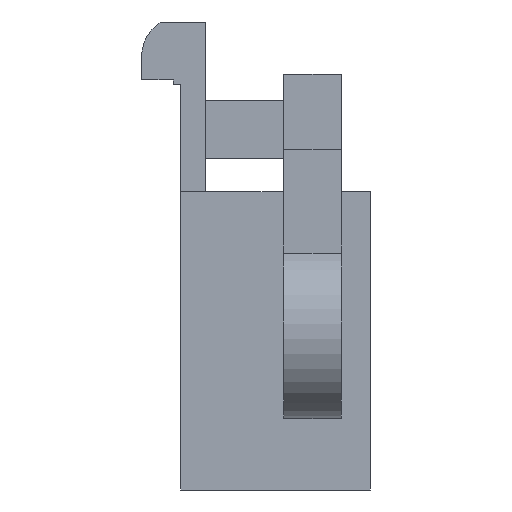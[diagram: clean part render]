
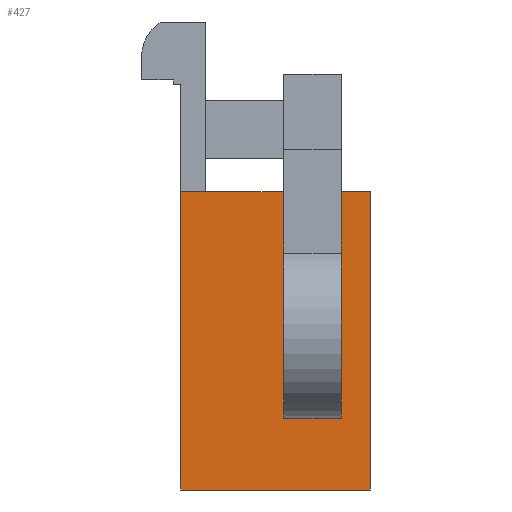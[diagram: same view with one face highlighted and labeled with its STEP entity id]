
A CAD part, front view. The second image highlights one B-rep face of the part: STEP entity #427.
In plain terms, the highlighted planar face has unit normal (0, -1, 0).
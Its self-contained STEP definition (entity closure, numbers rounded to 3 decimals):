
#22 = VERTEX_POINT('',#23);
#23 = CARTESIAN_POINT('',(-32.5,4.5,4.85));
#32 = PLANE('',#33);
#33 = AXIS2_PLACEMENT_3D('',#34,#35,#36);
#34 = CARTESIAN_POINT('',(-32.5,4.5,-5.45));
#35 = DIRECTION('',(-1.,-0.,-0.));
#36 = DIRECTION('',(0.,-0.,-1.));
#44 = PLANE('',#45);
#45 = AXIS2_PLACEMENT_3D('',#46,#47,#48);
#46 = CARTESIAN_POINT('',(-32.5,4.5,4.85));
#47 = DIRECTION('',(-0.,-0.,1.));
#48 = DIRECTION('',(1.,-0.,-0.));
#56 = EDGE_CURVE('',#57,#22,#59,.T.);
#57 = VERTEX_POINT('',#58);
#58 = CARTESIAN_POINT('',(-32.5,4.5,-5.45));
#59 = SURFACE_CURVE('',#60,(#64,#71),.PCURVE_S1.);
#60 = LINE('',#61,#62);
#61 = CARTESIAN_POINT('',(-32.5,4.5,-5.45));
#62 = VECTOR('',#63,1.);
#63 = DIRECTION('',(-0.,-0.,1.));
#64 = PCURVE('',#32,#65);
#65 = DEFINITIONAL_REPRESENTATION('',(#66),#70);
#66 = LINE('',#67,#68);
#67 = CARTESIAN_POINT('',(0.,0.));
#68 = VECTOR('',#69,1.);
#69 = DIRECTION('',(-1.,0.));
#70 = ( GEOMETRIC_REPRESENTATION_CONTEXT(2) 
PARAMETRIC_REPRESENTATION_CONTEXT() REPRESENTATION_CONTEXT('2D SPACE',''
  ) );
#71 = PCURVE('',#72,#77);
#72 = PLANE('',#73);
#73 = AXIS2_PLACEMENT_3D('',#74,#75,#76);
#74 = CARTESIAN_POINT('',(-32.5,4.5,-5.45));
#75 = DIRECTION('',(-0.,1.,-0.));
#76 = DIRECTION('',(0.,-0.,-1.));
#77 = DEFINITIONAL_REPRESENTATION('',(#78),#82);
#78 = LINE('',#79,#80);
#79 = CARTESIAN_POINT('',(0.,-0.));
#80 = VECTOR('',#81,1.);
#81 = DIRECTION('',(-1.,0.));
#82 = ( GEOMETRIC_REPRESENTATION_CONTEXT(2) 
PARAMETRIC_REPRESENTATION_CONTEXT() REPRESENTATION_CONTEXT('2D SPACE',''
  ) );
#100 = PLANE('',#101);
#101 = AXIS2_PLACEMENT_3D('',#102,#103,#104);
#102 = CARTESIAN_POINT('',(-32.5,4.5,-5.45));
#103 = DIRECTION('',(-0.,-0.,1.));
#104 = DIRECTION('',(1.,-0.,-0.));
#248 = EDGE_CURVE('',#22,#249,#251,.T.);
#249 = VERTEX_POINT('',#250);
#250 = CARTESIAN_POINT('',(-39.05,4.5,4.85));
#251 = SURFACE_CURVE('',#252,(#256,#263),.PCURVE_S1.);
#252 = LINE('',#253,#254);
#253 = CARTESIAN_POINT('',(-32.5,4.5,4.85));
#254 = VECTOR('',#255,1.);
#255 = DIRECTION('',(-1.,-0.,-0.));
#256 = PCURVE('',#44,#257);
#257 = DEFINITIONAL_REPRESENTATION('',(#258),#262);
#258 = LINE('',#259,#260);
#259 = CARTESIAN_POINT('',(0.,0.));
#260 = VECTOR('',#261,1.);
#261 = DIRECTION('',(-1.,0.));
#262 = ( GEOMETRIC_REPRESENTATION_CONTEXT(2) 
PARAMETRIC_REPRESENTATION_CONTEXT() REPRESENTATION_CONTEXT('2D SPACE',''
  ) );
#263 = PCURVE('',#72,#264);
#264 = DEFINITIONAL_REPRESENTATION('',(#265),#269);
#265 = LINE('',#266,#267);
#266 = CARTESIAN_POINT('',(-10.3,-0.));
#267 = VECTOR('',#268,1.);
#268 = DIRECTION('',(0.,1.));
#269 = ( GEOMETRIC_REPRESENTATION_CONTEXT(2) 
PARAMETRIC_REPRESENTATION_CONTEXT() REPRESENTATION_CONTEXT('2D SPACE',''
  ) );
#311 = PLANE('',#312);
#312 = AXIS2_PLACEMENT_3D('',#313,#314,#315);
#313 = CARTESIAN_POINT('',(-39.05,-20.8,8.55));
#314 = DIRECTION('',(-1.,0.,0.));
#315 = DIRECTION('',(0.,0.,1.));
#427 = ADVANCED_FACE('',(#428),#72,.F.);
#428 = FACE_BOUND('',#429,.F.);
#429 = EDGE_LOOP('',(#430,#431,#454,#475));
#430 = ORIENTED_EDGE('',*,*,#56,.F.);
#431 = ORIENTED_EDGE('',*,*,#432,.T.);
#432 = EDGE_CURVE('',#57,#433,#435,.T.);
#433 = VERTEX_POINT('',#434);
#434 = CARTESIAN_POINT('',(-39.05,4.5,-5.45));
#435 = SURFACE_CURVE('',#436,(#440,#447),.PCURVE_S1.);
#436 = LINE('',#437,#438);
#437 = CARTESIAN_POINT('',(-32.5,4.5,-5.45));
#438 = VECTOR('',#439,1.);
#439 = DIRECTION('',(-1.,-0.,-0.));
#440 = PCURVE('',#72,#441);
#441 = DEFINITIONAL_REPRESENTATION('',(#442),#446);
#442 = LINE('',#443,#444);
#443 = CARTESIAN_POINT('',(0.,-0.));
#444 = VECTOR('',#445,1.);
#445 = DIRECTION('',(0.,1.));
#446 = ( GEOMETRIC_REPRESENTATION_CONTEXT(2) 
PARAMETRIC_REPRESENTATION_CONTEXT() REPRESENTATION_CONTEXT('2D SPACE',''
  ) );
#447 = PCURVE('',#100,#448);
#448 = DEFINITIONAL_REPRESENTATION('',(#449),#453);
#449 = LINE('',#450,#451);
#450 = CARTESIAN_POINT('',(0.,0.));
#451 = VECTOR('',#452,1.);
#452 = DIRECTION('',(-1.,0.));
#453 = ( GEOMETRIC_REPRESENTATION_CONTEXT(2) 
PARAMETRIC_REPRESENTATION_CONTEXT() REPRESENTATION_CONTEXT('2D SPACE',''
  ) );
#454 = ORIENTED_EDGE('',*,*,#455,.T.);
#455 = EDGE_CURVE('',#433,#249,#456,.T.);
#456 = SURFACE_CURVE('',#457,(#461,#468),.PCURVE_S1.);
#457 = LINE('',#458,#459);
#458 = CARTESIAN_POINT('',(-39.05,4.5,1.55));
#459 = VECTOR('',#460,1.);
#460 = DIRECTION('',(0.,-0.,1.));
#461 = PCURVE('',#72,#462);
#462 = DEFINITIONAL_REPRESENTATION('',(#463),#467);
#463 = LINE('',#464,#465);
#464 = CARTESIAN_POINT('',(-7.,6.55));
#465 = VECTOR('',#466,1.);
#466 = DIRECTION('',(-1.,0.));
#467 = ( GEOMETRIC_REPRESENTATION_CONTEXT(2) 
PARAMETRIC_REPRESENTATION_CONTEXT() REPRESENTATION_CONTEXT('2D SPACE',''
  ) );
#468 = PCURVE('',#311,#469);
#469 = DEFINITIONAL_REPRESENTATION('',(#470),#474);
#470 = LINE('',#471,#472);
#471 = CARTESIAN_POINT('',(-7.,25.3));
#472 = VECTOR('',#473,1.);
#473 = DIRECTION('',(1.,-0.));
#474 = ( GEOMETRIC_REPRESENTATION_CONTEXT(2) 
PARAMETRIC_REPRESENTATION_CONTEXT() REPRESENTATION_CONTEXT('2D SPACE',''
  ) );
#475 = ORIENTED_EDGE('',*,*,#248,.F.);
